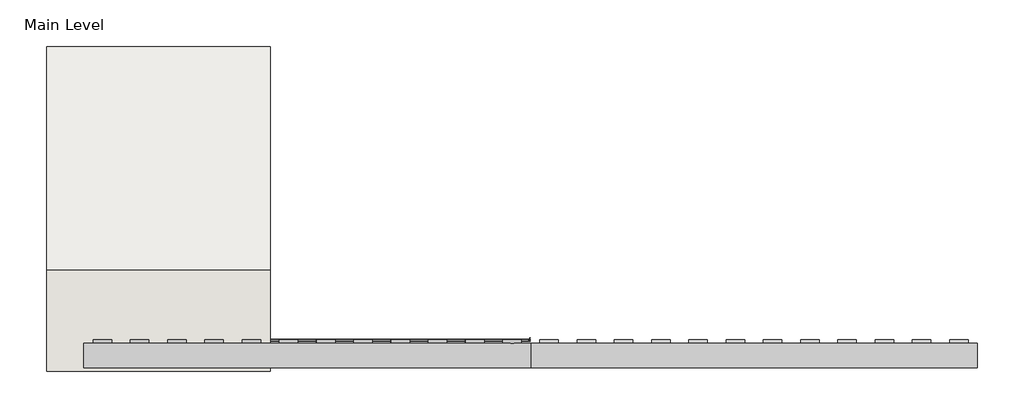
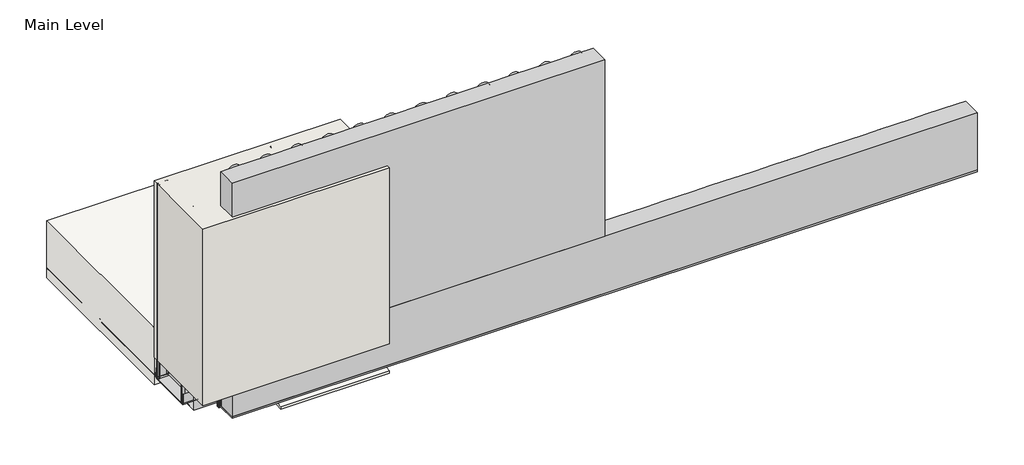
# One storey, incomplete: 13 proxies, 2 coverings, 2 walls.
"""IFC4 building model written with IfcOpenShell, lengths in millimetres."""

from ifc_helpers import new_model, si_unit, frame, origin, origin_with_axes, place, context, project, spatial, polyline, outline, extrude, transform, mapped, element, save
from components import generic_models_9a115d84, generic_models_4ec5f286, generic_models_2e656d56, generic_models_47e8b319, proxy_50213ae0, proxy_cc65e3d2, proxy_63d6b373, soffit_box_soffit_box_108ed7b6, wood_blocking_c9818c35, wood_blocking_63bdfc83

model = new_model("IFC4")

# Units and contexts
model_context = context("Model", 3, world=origin())
ifc_project = project(units=[si_unit("LENGTHUNIT", "METRE", prefix="MILLI")], contexts=[model_context])

# Site, building, storey
site = spatial("IfcSite", under=ifc_project)
building = spatial("IfcBuilding", under=site)
storey = spatial("IfcBuildingStorey", under=building, Name="Main Level", Elevation=0.0)

# Proxies
placement = place(None, origin())
generic_models_shape = generic_models_9a115d84(model_context)
element("IfcBuildingElementProxy", 1, Name="CRAi Generic Model Metal Stud Array : CRAi Generic Model Metal Stud Array", ObjectType="CRAi Generic Model Metal Stud Array : CRAi Generic Model Metal Stud Array", at=placement, inside=storey, context=model_context, shape_type="MappedRepresentation", body=[
    mapped(generic_models_shape, transform((26692.3726773, 726.0566297, -60.325), x_axis=(-1.0, 0.0, 0.0), y_axis=(0.0, -1.0, 0.0), z_axis=(0.0, 0.0, 1.0))),
])
generic_models_2_shape = generic_models_4ec5f286(model_context)
element("IfcBuildingElementProxy", 2, Name="Durabond Generic Model Insulation Adhesive Flat : Durabond Generic Model Insulation Adhesive Flat", ObjectType="Durabond Generic Model Insulation Adhesive Flat : Durabond Generic Model Insulation Adhesive Flat", at=placement, inside=storey, context=model_context, shape_type="MappedRepresentation", body=[
    mapped(generic_models_2_shape, transform((26641.5726773, 627.6316297, -9.525), x_axis=(1.0, 0.0, 0.0), y_axis=(0.0, 1.0, 0.0), z_axis=(0.0, 0.0, 1.0))),
])
element("IfcBuildingElementProxy", 3, Name="Durabond Generic Model Insulation Adhesive Flat : Durabond Generic Model Insulation Adhesive Flat", ObjectType="Durabond Generic Model Insulation Adhesive Flat : Durabond Generic Model Insulation Adhesive Flat", at=placement, inside=storey, context=model_context, shape_type="MappedRepresentation", body=[
    mapped(generic_models_2_shape, transform((26743.1726773, 627.6316297, -9.525), x_axis=(1.0, 0.0, 0.0), y_axis=(0.0, 1.0, 0.0), z_axis=(0.0, 0.0, 1.0))),
])
element("IfcBuildingElementProxy", 4, Name="Durabond Generic Model Insulation Adhesive Flat : Durabond Generic Model Insulation Adhesive Flat", ObjectType="Durabond Generic Model Insulation Adhesive Flat : Durabond Generic Model Insulation Adhesive Flat", at=placement, inside=storey, context=model_context, shape_type="MappedRepresentation", body=[
    mapped(generic_models_2_shape, transform((26844.7726773, 627.6316297, -9.525), x_axis=(1.0, 0.0, 0.0), y_axis=(0.0, 1.0, 0.0), z_axis=(0.0, 0.0, 1.0))),
])
element("IfcBuildingElementProxy", 5, Name="Durabond Generic Model Insulation Adhesive Flat : Durabond Generic Model Insulation Adhesive Flat", ObjectType="Durabond Generic Model Insulation Adhesive Flat : Durabond Generic Model Insulation Adhesive Flat", at=placement, inside=storey, context=model_context, shape_type="MappedRepresentation", body=[
    mapped(generic_models_2_shape, transform((26946.3726773, 627.6316297, -9.525), x_axis=(1.0, 0.0, 0.0), y_axis=(0.0, 1.0, 0.0), z_axis=(0.0, 0.0, 1.0))),
])
element("IfcBuildingElementProxy", 6, Name="Durabond Generic Model Insulation Adhesive Flat : Durabond Generic Model Insulation Adhesive Flat", ObjectType="Durabond Generic Model Insulation Adhesive Flat : Durabond Generic Model Insulation Adhesive Flat", at=placement, inside=storey, context=model_context, shape_type="MappedRepresentation", body=[
    mapped(generic_models_2_shape, transform((27047.9726773, 627.6316297, -9.525), x_axis=(1.0, 0.0, 0.0), y_axis=(0.0, 1.0, 0.0), z_axis=(0.0, 0.0, 1.0))),
])
generic_models_3_shape = generic_models_2e656d56(model_context)
generic_models_4_shape = generic_models_47e8b319(model_context)
element("IfcBuildingElementProxy", 7, Name="Durabond Generic Soffit Drainage Vent : Durabond Generic Soffit Drainage Vent", ObjectType="Durabond Generic Soffit Drainage Vent : Durabond Generic Soffit Drainage Vent", at=placement, inside=storey, context=model_context, shape_type="MappedRepresentation", body=[
    mapped(generic_models_3_shape, transform((27199.3497774, 626.0441297, -93.6625), x_axis=(1.0, 0.0, 0.0), y_axis=(0.0, 1.0, 0.0), z_axis=(0.0, 0.0, 1.0))),
    mapped(generic_models_4_shape, transform((27199.3497774, 626.0441297, -93.6625), x_axis=(1.0, 0.0, 0.0), y_axis=(0.0, 1.0, 0.0), z_axis=(0.0, 0.0, 1.0))),
])
proxy_shape = proxy_50213ae0(model_context)
element("IfcBuildingElementProxy", 8, Name="Durabond Generic Model Quantum Select 5-0 Insulation Board : 3\"", ObjectType="Durabond Generic Model Quantum Select 5-0 Insulation Board : 3\"", at=placement, inside=storey, context=model_context, shape_type="MappedRepresentation", body=[
    mapped(proxy_shape, transform((27200.3726773, 624.4566297, 422.275), x_axis=(1.0, 0.0, 0.0), y_axis=(0.0, 0.0, 1.0), z_axis=(0.0, -1.0, 0.0))),
])
proxy_2_shape = proxy_cc65e3d2(model_context)
element("IfcBuildingElementProxy", 9, Name="Durabond Generic Model Quantum Select 5-0 Vent Board : 3\"", ObjectType="Durabond Generic Model Quantum Select 5-0 Vent Board : 3\"", at=placement, inside=storey, context=model_context, shape_type="MappedRepresentation", body=[
    mapped(proxy_2_shape, transform((27809.1789273, 624.4566297, 15.875), x_axis=(1.0, 0.0, 0.0), y_axis=(0.0, 0.0, 1.0), z_axis=(0.0, -1.0, 0.0))),
])
proxy_3_shape = proxy_63d6b373(model_context)
element("IfcBuildingElementProxy", 10, Name="Durabond Generic Model Corner 90 Membrane : 4\" Barrier Seam Tape", ObjectType="Durabond Generic Model Corner 90 Membrane : 4\" Barrier Seam Tape", at=placement, inside=storey, context=model_context, shape_type="MappedRepresentation", body=[
    mapped(proxy_3_shape, transform((26514.5726773, 633.9816297, -82.55), x_axis=(0.0, 0.0, -1.0), y_axis=(0.0, 1.0, 0.0), z_axis=(1.0, 0.0, 0.0))),
])
soffit_box_soffit_box_shape = soffit_box_soffit_box_108ed7b6(model_context)
element("IfcBuildingElementProxy", 11, Name="Soffit Box : Soffit Box", ObjectType="Soffit Box : Soffit Box", at=placement, inside=storey, context=model_context, shape_type="MappedRepresentation", body=[
    mapped(soffit_box_soffit_box_shape, transform((0.0, 0.0, 0.0), x_axis=(1.0, 0.0, 0.0), y_axis=(0.0, 1.0, 0.0), z_axis=(0.0, 0.0, 1.0))),
])
wood_blocking_shape = wood_blocking_c9818c35(model_context)
element("IfcBuildingElementProxy", 12, Name="CRAi Generic Model Line Based Metal Framing Track : Wood Blocking", ObjectType="CRAi Generic Model Line Based Metal Framing Track : Wood Blocking", at=placement, inside=storey, context=model_context, shape_type="MappedRepresentation", body=[
    mapped(wood_blocking_shape, transform((26489.1726773, 649.8566297, -66.675), x_axis=(1.0, 0.0, 0.0), y_axis=(0.0, 1.0, 0.0), z_axis=(0.0, 0.0, 1.0))),
])
wood_blocking_2_shape = wood_blocking_63bdfc83(model_context)
element("IfcBuildingElementProxy", 13, Name="CRAi Generic Model Line Based Metal Framing Track : Wood Blocking", ObjectType="CRAi Generic Model Line Based Metal Framing Track : Wood Blocking", at=placement, inside=storey, context=model_context, shape_type="MappedRepresentation", body=[
    mapped(wood_blocking_2_shape, transform((26491.8622441, 802.2566297, 85.725), x_axis=(1.0, 0.0, 0.0), y_axis=(0.0, 0.0, -1.0), z_axis=(0.0, 1.0, 0.0))),
])

# Coverings
element("IfcCovering", 14, ObjectType="Durabond Detail Ceiling 3 Metal Stud", at=placement, inside=storey, context=model_context, shape_type="SweptSolid", body=[
    extrude(outline(polyline([(27098.7726773, 814.9566297), (26489.1726773, 814.9566297), (26489.1726773, 1424.5566297), (27098.7726773, 1424.5566297), (27098.7726773, 814.9566297)])), frame((0.0, 0.0, -95.25), z_axis=(0.0, 0.0, 1.0), x_axis=(1.0, 0.0, 0.0)), (0.0, 0.0, 1.0), 196.85),
])
element("IfcCovering", 15, ObjectType="Durabond Stucco Lamina", at=placement, inside=storey, context=model_context, shape_type="SweptSolid", body=[
    extrude(outline(polyline([(538.7316297, -92.3552522), (614.9316297, -85.688616), (614.9316297, -95.25), (538.7316297, -101.9166362), (538.7316297, -92.3552522)])), frame((26743.1726773, 0.0, 0.0), z_axis=(1.0, 0.0, 0.0), x_axis=(0.0, 1.0, 0.0)), (0.0, 0.0, 1.0), 355.6),
])

# Walls
element("IfcWall", 16, ObjectType="189mm (7.5”) EIFS Field Applied on Mtl. Stud Layer - 50mm Grooved Insulation Board Metal Stud Wall", at=placement, inside=storey, context=model_context, shape_type="SweptSolid", body=[
    extrude(outline(polyline([(27098.7726773, 538.7316297), (26489.1726773, 538.7316297), (26489.1726773, 814.9566297), (27098.7726773, 814.9566297), (27098.7726773, 538.7316297)])), origin_with_axes(), (0.0, 0.0, 1.0), 609.6),
])
element("IfcWall", 17, ObjectType="Durabond Stucco System Lamina Back of Soffit", at=placement, inside=storey, context=model_context, shape_type="SweptSolid", body=[
    extrude(outline(polyline([(27098.7726773, 614.9316297), (26743.1726773, 614.9316297), (26743.1726773, 621.2816297), (27098.7726773, 621.2816297), (27098.7726773, 614.9316297)])), frame((0.0, 0.0, -98.425), z_axis=(0.0, 0.0, 1.0), x_axis=(1.0, 0.0, 0.0)), (0.0, 0.0, 1.0), 47.625),
])

save(model, "model.ifc")
